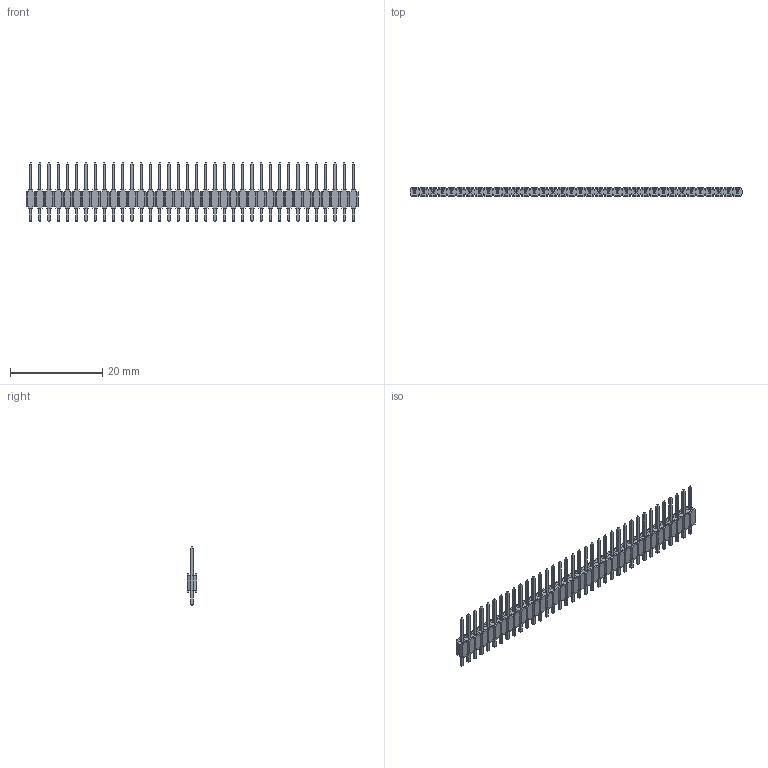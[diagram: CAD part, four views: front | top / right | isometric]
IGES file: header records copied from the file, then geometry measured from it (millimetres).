
Global section: file name: N:\GOLF_VI_2mm_UGII\9514XX_906XX06_AR\951436-9060806-AR.igs; native system: NX V3.0; preprocessor: UGS NX IGES V4.0; date: 20070314.144623; units: millimetre
Bounding box: 72 x 2 x 12.7 mm (x, y, z)
Surface area: 1752.9 mm2 (no closed solid volume)
Topology: 0 solids, 0 shells, 1444 faces, 7645 edges, 7645 vertices
Faces by surface type: bspline 1444
